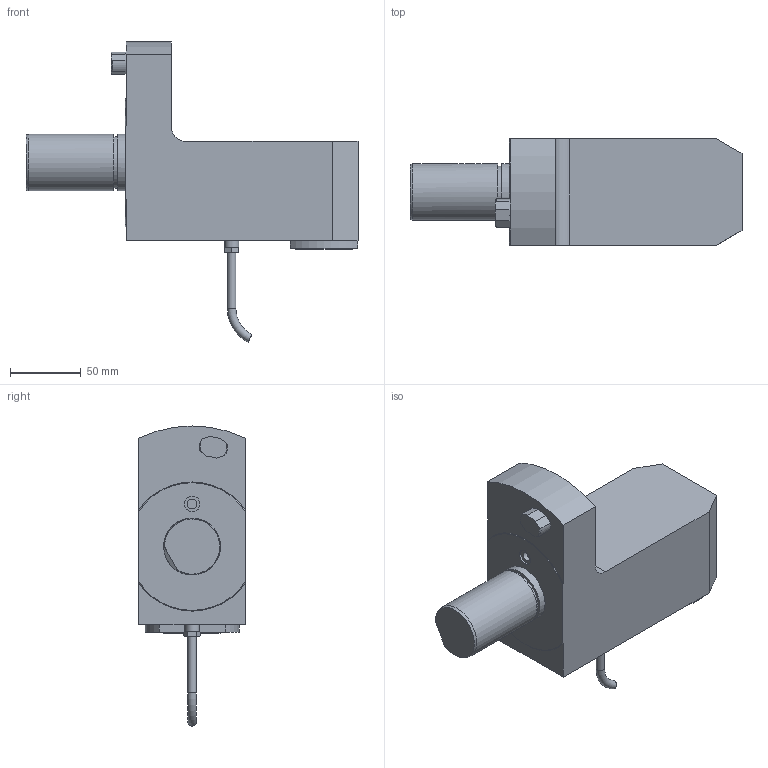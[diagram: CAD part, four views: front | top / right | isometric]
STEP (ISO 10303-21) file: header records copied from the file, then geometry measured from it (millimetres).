
FILE_DESCRIPTION(/* description */ (''),/* implementation_level */ '2;1');
FILE_NAME(/* name */ '172896',/* time_stamp */ '2020-12-22T14:27:12+01:00',/* author */ (''),/* organization */ (''),/* preprocessor_version */ 'ST-DEVELOPER v16.5',/* originating_system */ 'HiCAD 2017 2201.0 Build 268',/* authorisation */ '');
FILE_SCHEMA (('AUTOMOTIVE_DESIGN { 1 0 10303 214 1 1 1 1 }'));
Length unit declared in the file: millimetre
Products named in the file (3): Root; Teil; ABCDEFGHIJKLMNOPQRSTUVWXYZ[\]^_`ABCDEFGHIJKLMNOPꎐ醼ƭ
Assembly tree (2 placements, depth 3):
  Root
    Teil
      ABCDEFGHIJKLMNOPQRSTUVWXYZ[\]^_`ABCDEFGHIJKLMNOPꎐ醼ƭ
Bounding box: 234 x 75.1 x 211.54 mm (x, y, z)
Volume: 1101798.8 mm3; surface area: 86653 mm2
Topology: 2 solids, 2 shells, 259 faces, 666 edges, 443 vertices
Faces by surface type: plane 156, bspline 51, cylinder 26, torus 14, cone 12
Full cylindrical faces by diameter (mm): 4 x1, 6 x1, 6.8 x1, 8.773 x2, 10 x1, 11.1 x1, 12 x1, 31.6 x1, 36.5 x1, 40 x3
Entity records: 15445 total; most frequent: CARTESIAN_POINT 3228, PRESENTATION_STYLE_ASSIGNMENT 1322, OVER_RIDING_STYLED_ITEM 1320, COLOUR_RGB 1283, DRAUGHTING_PRE_DEFINED_CURVE_FONT 1280, CURVE_STYLE 1280, ORIENTED_EDGE 1280, DIRECTION 969
